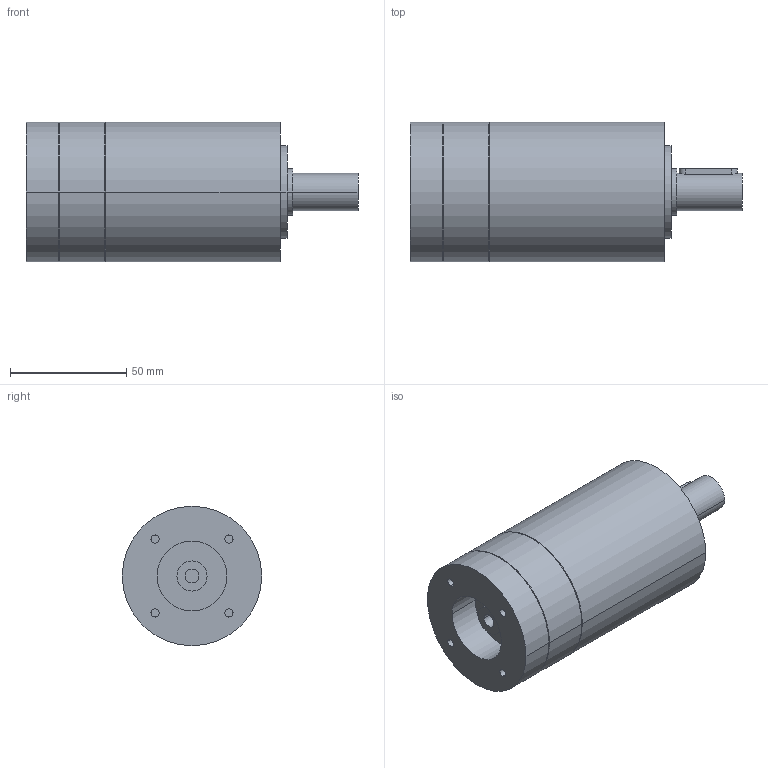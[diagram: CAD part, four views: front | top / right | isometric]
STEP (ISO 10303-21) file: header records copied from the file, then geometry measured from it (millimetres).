
FILE_DESCRIPTION(('CoCreate Modeling STEP Export'),'2;1');
FILE_NAME('GPR75_ig-9-12-16-20-24-30-36_16_B14_6_P16.stp','2014-08-25T16:04:42',(''),(''),'CoCreate Modeling STEP processor for AP214 (Solid Model)','CoCreate Modeling 16.00C 25-Feb-2009 (C) Parametric Technology GmbH','');
FILE_SCHEMA(('AUTOMOTIVE_DESIGN { 1 0 10303 214 1 1 1 1 }'));
Length unit declared in the file: millimetre
Products named in the file (2): GPR75_ig-9-12-16-20-24-30-36_16_B14_6_P16
Assembly tree (1 placements, depth 2):
  GPR75_ig-9-12-16-20-24-30-36_16_B14_6_P16
    GPR75_ig-9-12-16-20-24-30-36_16_B14_6_P16
Bounding box: 142.9 x 60 x 60 mm (x, y, z)
Volume: 308388 mm3; surface area: 32134.3 mm2
Topology: 1 solids, 1 shells, 77 faces, 197 edges, 141 vertices
Faces by surface type: cylinder 46, plane 25, cone 6
Entity records: 1971 total; most frequent: ORIENTED_EDGE 390, CARTESIAN_POINT 361, DIRECTION 254, EDGE_CURVE 195, VERTEX_POINT 141, AXIS2_PLACEMENT_3D 98, EDGE_LOOP 98, FACE_OUTER_BOUND 77
